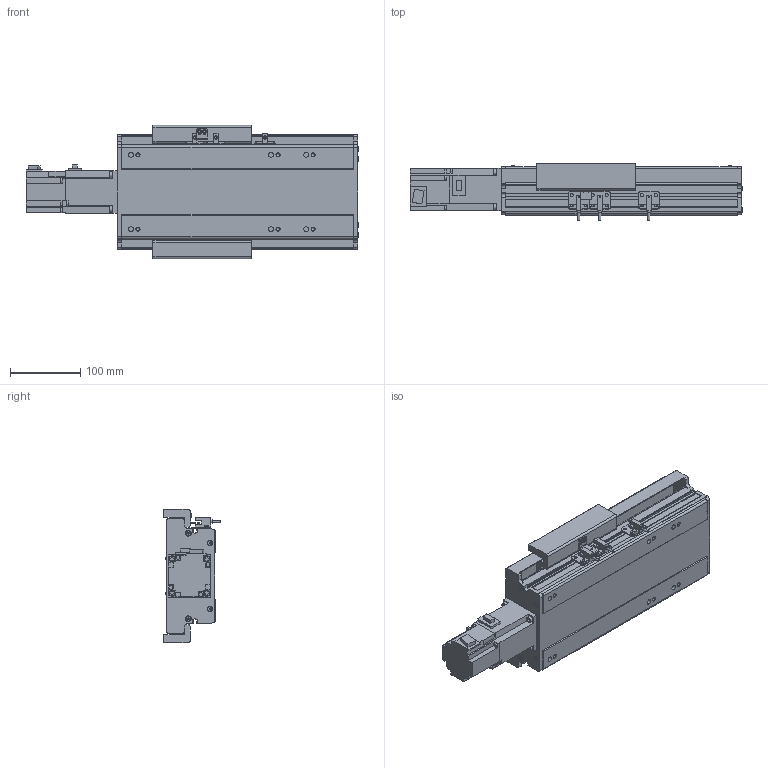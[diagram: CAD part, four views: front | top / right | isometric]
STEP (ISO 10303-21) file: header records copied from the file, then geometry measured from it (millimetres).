
FILE_DESCRIPTION(/* description */ ('STEP AP214'),/* implementation_level */ '2;1');
FILE_NAME(/* name */ 'PSM140-L10-S100-BC-T40-C1-N(0)',/* time_stamp */ '2022-06-13T03:18:24+02:00',/* author */ ('License CC BY-ND 4.0'),/* organization */ ('CADENAS'),/* preprocessor_version */ 'ST-DEVELOPER v18.102',/* originating_system */ 'PARTsolutions',/* authorisation */ ' ');
FILE_SCHEMA (('AUTOMOTIVE_DESIGN {1 0 10303 214 3 1 1}'));
Length unit declared in the file: millimetre
Products named in the file (7): PSM140-L10-S100-BC-T40-C1-N(0); PSM-Sensor; PSM140-S100-342.5; T40-p1; PSM140_body3; PSM140-S100_body1; PSM140-L10-S100-BC-T40-C1-N(0)_dummy
Assembly tree (10 placements, depth 2):
  PSM140-L10-S100-BC-T40-C1-N(0)
    PSM-Sensor  x3
    PSM140-S100-342.5  x3
    T40-p1
    PSM140_body3
    PSM140-S100_body1
    PSM140-L10-S100-BC-T40-C1-N(0)_dummy
Bounding box: 473.7 x 81.3 x 190 mm (x, y, z)
Volume: 2221487.7 mm3; surface area: 463190.2 mm2
Topology: 9 solids, 9 shells, 912 faces, 2403 edges, 1562 vertices
Faces by surface type: plane 616, cylinder 234, cone 48, torus 14
Full cylindrical faces by diameter (mm): 2.8 x3, 4.5 x12, 4.6 x3, 4.917 x14, 5.5 x7, 5.7 x6, 6 x2, 7 x14, 8 x8, 8.5 x4, 10.5 x6, 14 x1, 50 x1
Entity records: 23116 total; most frequent: CARTESIAN_POINT 4065, DIRECTION 3923, ORIENTED_EDGE 3710, EDGE_CURVE 1855, LINE 1337, VECTOR 1337, AXIS2_PLACEMENT_3D 1293, VERTEX_POINT 1288
